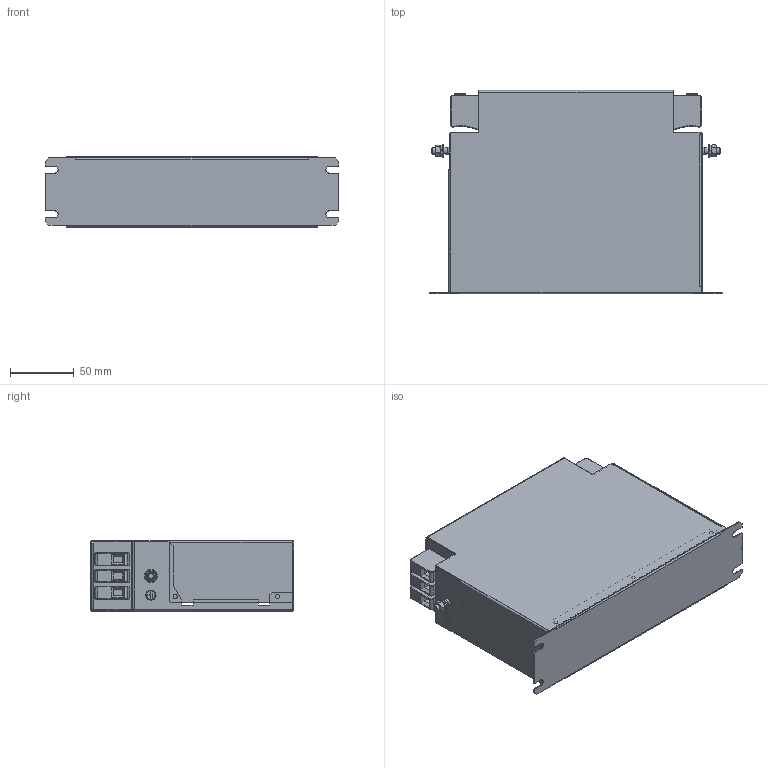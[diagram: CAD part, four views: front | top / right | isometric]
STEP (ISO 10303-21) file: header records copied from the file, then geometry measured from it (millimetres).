
FILE_DESCRIPTION(/* description */ ('raw material description'),/* implementation_level */ '2;1');
FILE_NAME(/* name */ 'C:\Users\Oliver.Volic\OneDrive - Schaffner EMV AG\Projekte\STEP\Wanda\FN3288IT-16-44.stp',/* time_stamp */ '2018-06-28T10:05:07+02:00',/* author */ ('Oliver.Volic'),/* organization */ ('Schaffner EMV AG'),/* preprocessor_version */ 'ST-DEVELOPER v16.5',/* originating_system */ 'Autodesk Inventor 2017',/* authorisation */ '');
FILE_SCHEMA (('AUTOMOTIVE_DESIGN { 1 0 10303 214 3 1 1 }'));
Length unit declared in the file: millimetre
Products named in the file (1): FN3288IT-16-44
Bounding box: 230 x 159.1 x 55 mm (x, y, z)
Volume: 123902.3 mm3; surface area: 223386.9 mm2
Topology: 1 solids, 2 shells, 1123 faces, 2827 edges, 1737 vertices
Faces by surface type: plane 698, cylinder 298, torus 60, sphere 36, bspline 17, cone 14
Full cylindrical faces by diameter (mm): 3.3 x13, 4.5 x6, 5 x4, 5.3 x2, 6.206 x2, 7 x2, 8 x2, 8.5 x6, 10 x2
Entity records: 33899 total; most frequent: CARTESIAN_POINT 6052, DIRECTION 5586, ORIENTED_EDGE 5388, EDGE_CURVE 2694, LINE 1902, VECTOR 1902, AXIS2_PLACEMENT_3D 1842, VERTEX_POINT 1717
